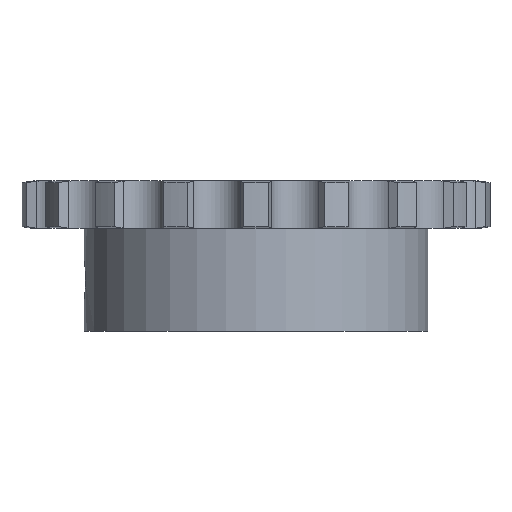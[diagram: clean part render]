
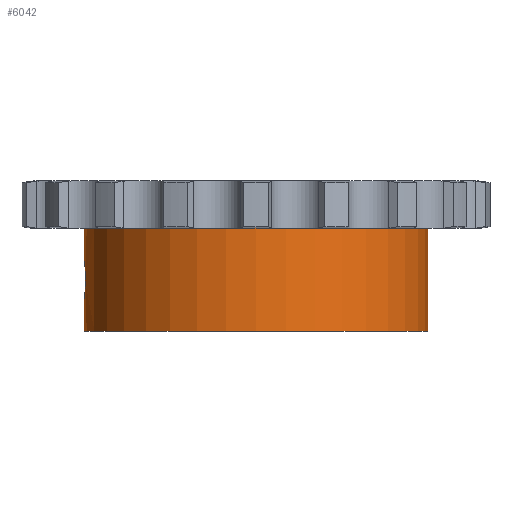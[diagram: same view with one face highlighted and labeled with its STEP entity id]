
A CAD part, front view. The second image highlights one B-rep face of the part: STEP entity #6042.
In plain terms, the highlighted cylindrical face has radius 40 mm (diameter 80 mm), a partial arc.
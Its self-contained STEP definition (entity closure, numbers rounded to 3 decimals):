
#1239=CARTESIAN_POINT('',(0.,0.,-5.55));
#1240=DIRECTION('',(0.,0.,1.));
#1241=DIRECTION('',(-1.,0.,0.));
#1242=AXIS2_PLACEMENT_3D('',#1239,#1240,#1241);
#2885=CARTESIAN_POINT('',(-40.,0.,
-12.5));
#2909=DIRECTION('',(0.,0.,1.));
#2910=VECTOR('',#2909,23.9);
#2911=CARTESIAN_POINT('',(40.,0.,-29.45));
#2912=LINE('',#2911,#2910);
#3034=CARTESIAN_POINT('',(-40.,0.,
-12.5));
#3035=CARTESIAN_POINT('',(-40.,-0.201,
-12.5));
#3036=CARTESIAN_POINT('',(-39.997,-0.631,
-12.525));
#3037=CARTESIAN_POINT('',(-39.981,-1.287,
-12.646));
#3038=CARTESIAN_POINT('',(-39.954,-1.947,
-12.863));
#3039=CARTESIAN_POINT('',(-39.919,-2.57,
-13.165));
#3040=CARTESIAN_POINT('',(-39.878,-3.144,
-13.546));
#3041=CARTESIAN_POINT('',(-39.833,-3.658,
-13.997));
#3042=CARTESIAN_POINT('',(-39.79,-4.104,
-14.511));
#3043=CARTESIAN_POINT('',(-39.749,-4.476,
-15.078));
#3044=CARTESIAN_POINT('',(-39.715,-4.766,
-15.69));
#3045=CARTESIAN_POINT('',(-39.69,-4.969,
-16.33));
#3046=CARTESIAN_POINT('',(-39.677,-5.075,
-16.938));
#3047=CARTESIAN_POINT('',(-39.674,-5.096,
-17.328));
#3048=CARTESIAN_POINT('',(-39.674,-5.096,
-17.5));
#3053=DIRECTION('',(0.,0.,1.));
#3054=VECTOR('',#3053,6.95);
#3055=CARTESIAN_POINT('',(-40.,0.,
-12.5));
#3056=LINE('',#3055,#3054);
#3060=DIRECTION('',(0.,0.,1.));
#3061=VECTOR('',#3060,6.95);
#3062=CARTESIAN_POINT('',(-40.,0.,-29.45));
#3063=LINE('',#3062,#3061);
#3067=CARTESIAN_POINT('',(-39.674,-5.096,
-17.5));
#3068=CARTESIAN_POINT('',(-39.674,-5.096,
-17.683));
#3069=CARTESIAN_POINT('',(-39.677,-5.073,
-18.084));
#3070=CARTESIAN_POINT('',(-39.691,-4.962,
-18.701));
#3071=CARTESIAN_POINT('',(-39.717,-4.756,
-19.337));
#3072=CARTESIAN_POINT('',(-39.751,-4.463,
-19.944));
#3073=CARTESIAN_POINT('',(-39.791,-4.09,
-20.507));
#3074=CARTESIAN_POINT('',(-39.835,-3.644,
-21.017));
#3075=CARTESIAN_POINT('',(-39.879,-3.131,
-21.464));
#3076=CARTESIAN_POINT('',(-39.92,-2.559,
-21.841));
#3077=CARTESIAN_POINT('',(-39.955,-1.938,
-22.141));
#3078=CARTESIAN_POINT('',(-39.981,-1.281,
-22.355));
#3079=CARTESIAN_POINT('',(-39.997,-0.628,
-22.475));
#3080=CARTESIAN_POINT('',(-40.,-0.2,
-22.5));
#3081=CARTESIAN_POINT('',(-40.,0.,
-22.5));
#3094=CARTESIAN_POINT('',(0.,0.,-29.45));
#3095=DIRECTION('',(0.,0.,-1.));
#3096=DIRECTION('',(1.,0.,0.));
#3097=AXIS2_PLACEMENT_3D('',#3094,#3095,#3096);
#3463=CARTESIAN_POINT('',(-40.,0.,-29.45));
#3464=CARTESIAN_POINT('',(40.,0.,-29.45));
#3465=VERTEX_POINT('',#3463);
#3466=VERTEX_POINT('',#3464);
#3467=CARTESIAN_POINT('',(40.,0.,-5.55));
#3468=VERTEX_POINT('',#3467);
#3469=CARTESIAN_POINT('',(-40.,0.,-5.55));
#3470=VERTEX_POINT('',#3469);
#3668=VERTEX_POINT('',#2885);
#3671=VERTEX_POINT('',#3048);
#3673=VERTEX_POINT('',#3081);
#6026=CARTESIAN_POINT('',(0.,0.,5.55));
#6027=DIRECTION('',(0.,0.,1.));
#6028=DIRECTION('',(1.,0.,0.));
#6029=AXIS2_PLACEMENT_3D('',#6026,#6027,#6028);
#6030=CYLINDRICAL_SURFACE('',#6029,40.);
#6031=ORIENTED_EDGE('',*,*,#6016,.F.);
#6032=ORIENTED_EDGE('',*,*,#5587,.T.);
#6033=ORIENTED_EDGE('',*,*,#4936,.T.);
#6034=ORIENTED_EDGE('',*,*,#5584,.F.);
#6036=ORIENTED_EDGE('',*,*,#6035,.T.);
#6037=ORIENTED_EDGE('',*,*,#5580,.T.);
#6039=ORIENTED_EDGE('',*,*,#6038,.F.);
#6040=EDGE_LOOP('',(#6031,#6032,#6033,#6034,#6036,#6037,#6039));
#6041=FACE_OUTER_BOUND('',#6040,.F.);
#6042=ADVANCED_FACE('',(#6041),#6030,.T.);
#1243=CIRCLE('',#1242,40.);
#3049=B_SPLINE_CURVE_WITH_KNOTS('',3,(#3034,#3035,#3036,#3037,#3038,#3039,#3040,
#3041,#3042,#3043,#3044,#3045,#3046,#3047,#3048),.UNSPECIFIED.,.F.,.F.,(4,1,1,1,
1,1,1,1,1,1,1,1,4),(0.,0.075,0.161,0.247,
0.332,0.418,0.504,0.589,
0.675,0.76,0.846,0.932,1.),
.UNSPECIFIED.);
#3082=B_SPLINE_CURVE_WITH_KNOTS('',3,(#3067,#3068,#3069,#3070,#3071,#3072,#3073,
#3074,#3075,#3076,#3077,#3078,#3079,#3080,#3081),.UNSPECIFIED.,.F.,.F.,(4,1,1,1,
1,1,1,1,1,1,1,1,4),(0.,0.073,0.158,0.243,
0.329,0.414,0.499,0.584,
0.669,0.755,0.84,0.925,1.),
.UNSPECIFIED.);
#3098=CIRCLE('',#3097,40.);
#4936=EDGE_CURVE('',#3470,#3468,#1243,.T.);
#5580=EDGE_CURVE('',#3465,#3673,#3063,.T.);
#5584=EDGE_CURVE('',#3466,#3468,#2912,.T.);
#5587=EDGE_CURVE('',#3668,#3470,#3056,.T.);
#6016=EDGE_CURVE('',#3668,#3671,#3049,.T.);
#6035=EDGE_CURVE('',#3466,#3465,#3098,.T.);
#6038=EDGE_CURVE('',#3671,#3673,#3082,.T.);
